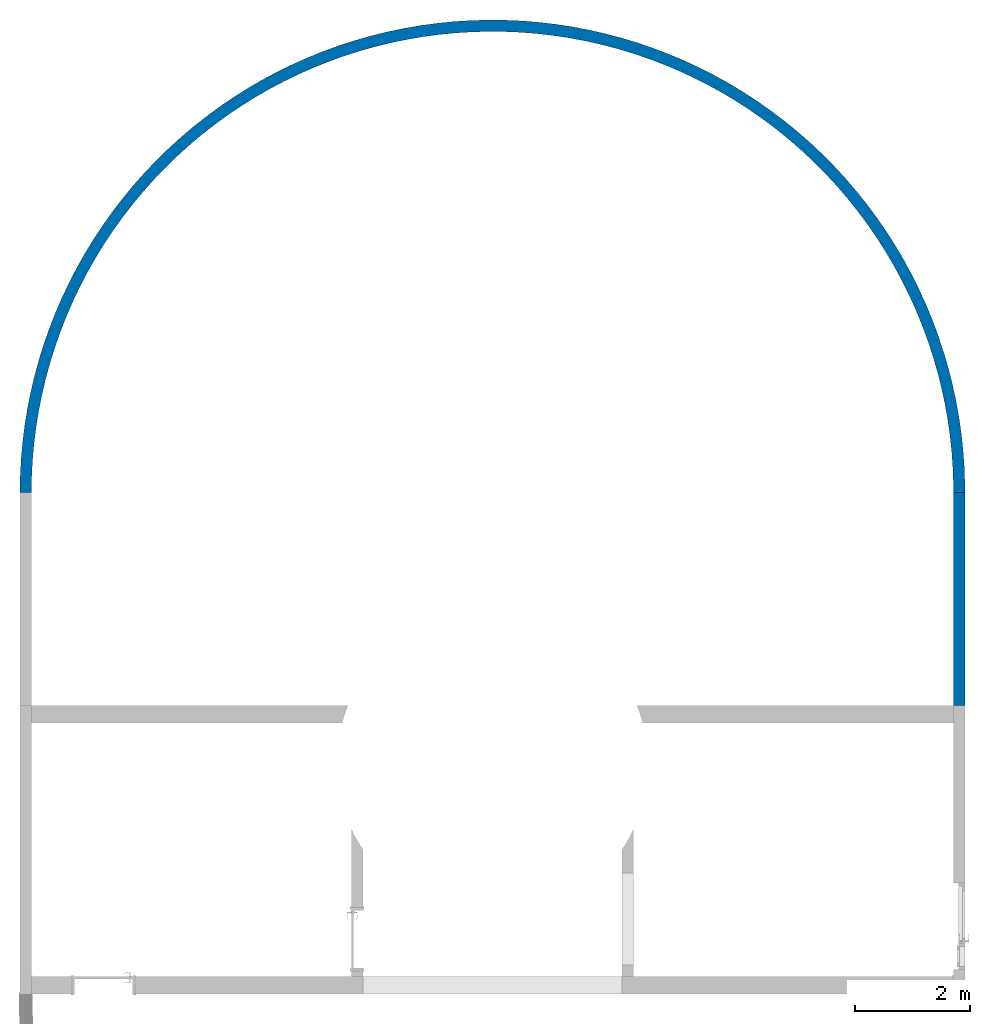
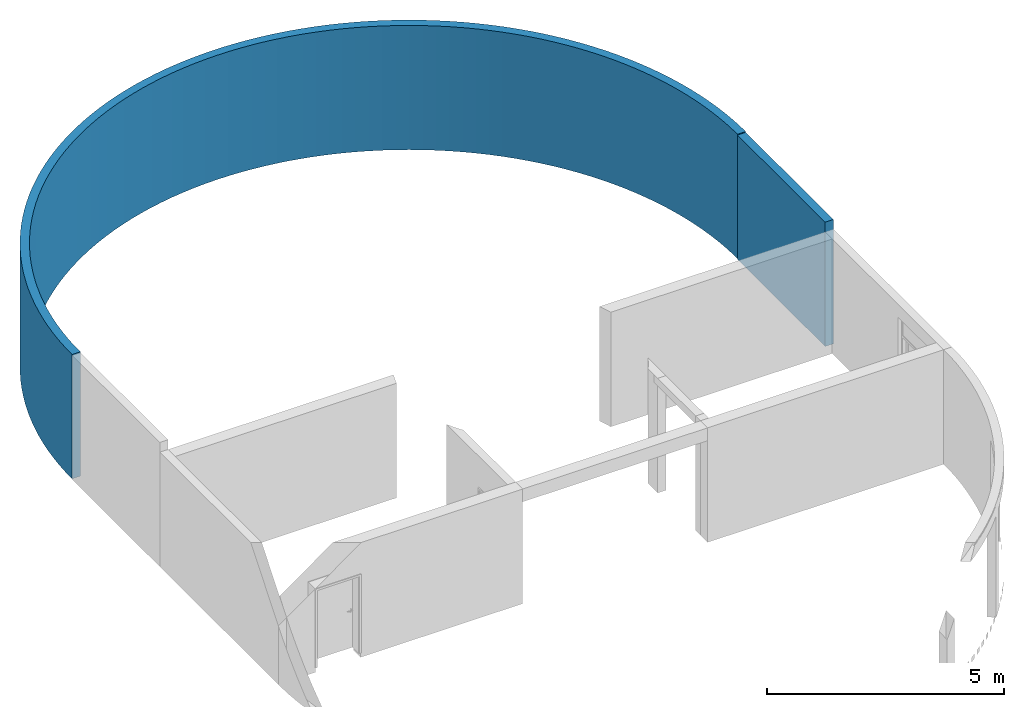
# One storey, part 6 of 6: 2 walls.
"""IFC4 building model written with IfcOpenShell, lengths in millimetres."""

from ifc_helpers import new_model, entity, si_unit, converted_unit, derived_unit, direction, frame, origin_with_axes, place, context, subcontext, project, spatial, polygons, material, constituent, constituent_set, type_object, element, save


model = new_model("IFC4")

# Units and contexts
model_context = context("Model", 3, precision=0.01, world=origin_with_axes(), true_north=direction((0.0, 1.0)))
body_context = subcontext(model_context, "Body", "Model", "MODEL_VIEW")
ifc_project = project(units=[si_unit("LENGTHUNIT", "METRE", prefix="MILLI"), si_unit("AREAUNIT", "SQUARE_METRE"), si_unit("VOLUMEUNIT", "CUBIC_METRE"), converted_unit("PLANEANGLEUNIT", "DEGREE", entity("IfcPlaneAngleMeasure", 0.0174532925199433), si_unit("PLANEANGLEUNIT", "RADIAN"), dimensions=[0, 0, 0, 0, 0, 0, 0]), converted_unit("TIMEUNIT", "Year", entity("IfcTimeMeasure", 31557600.0), si_unit("TIMEUNIT", "SECOND"), dimensions=[0, 0, 1, 0, 0, 0, 0]), si_unit("MASSUNIT", "GRAM", prefix="KILO"), si_unit("THERMODYNAMICTEMPERATUREUNIT", "DEGREE_CELSIUS"), si_unit("LUMINOUSINTENSITYUNIT", "LUMEN"), si_unit("ENERGYUNIT", "JOULE", prefix="MEGA"), derived_unit("THERMALCONDUCTANCEUNIT", [(si_unit("POWERUNIT", "WATT"), 1), (si_unit("LENGTHUNIT", "METRE"), -1), (si_unit("THERMODYNAMICTEMPERATUREUNIT", "KELVIN"), -1)]), derived_unit("SPECIFICHEATCAPACITYUNIT", [(si_unit("ENERGYUNIT", "JOULE"), 1), (si_unit("MASSUNIT", "GRAM", prefix="KILO"), -1), (si_unit("THERMODYNAMICTEMPERATUREUNIT", "KELVIN"), -1)]), derived_unit("MASSDENSITYUNIT", [(si_unit("MASSUNIT", "GRAM", prefix="KILO"), 1), (si_unit("VOLUMEUNIT", "CUBIC_METRE"), -1)])], contexts=[model_context])

# Site, building, storey
site_placement = place(None, origin_with_axes())
site = spatial("IfcSite", under=ifc_project, at=site_placement, Name="Exteriér", CompositionType="ELEMENT")
building_placement = place(site_placement, origin_with_axes())
building = spatial("IfcBuilding", under=site, at=building_placement, Name="Univerzitní lezecké centrum", CompositionType="ELEMENT")
storey_placement = place(building_placement, origin_with_axes())
storey = spatial("IfcBuildingStorey", under=building, at=storey_placement, Name="1.NP", CompositionType="ELEMENT", Elevation=0.0)

# Walls
ifc_material = material(Name="Beton vyztužený - vnější svislé kce")
ifc_constituent_1 = constituent(ifc_material, Name="Beton vyztužený - vnější svislé kce")
ifc_constituent_set_1 = constituent_set(constituents=[ifc_constituent_1], Name="!Vnější betonová stěna 200 mm")
wall_type = type_object("IfcWallType", Name="!Vnější betonová stěna 200 mm 200", PredefinedType="NOTDEFINED")
wall_1_placement = place(storey_placement, frame((10449.85164885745, 8399.999999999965, -100.000000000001), z_axis=(0.0, 0.0, 1.0), x_axis=(0.0, 1.0, 0.0)))
element("IfcWall", 1, at=wall_1_placement, inside=storey, type_object=wall_type, material=ifc_constituent_set_1, Name="St01", PredefinedType="NOTDEFINED", context=body_context, shape_type="Tessellation", body=[
    polygons([(145.5579959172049, -199.9999999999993, 0.0), (145.5579959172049, -199.9999999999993, 3200.0), (0.0, -199.9999999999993, 3200.0), (0.0, -199.9999999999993, 0.0), (436.4905859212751, -189.6680701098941, 0.0), (436.4905859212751, -189.6680701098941, 3200.0), (142.0078008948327, 0.0, 3200.0), (0.0, 0.0, 3200.0), (0.0, 0.0, 0.0), (142.0078008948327, 0.0, 0.0), (726.8732015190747, -169.0172284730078, 0.0), (726.8732015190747, -169.0172284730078, 3200.0), (425.8444740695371, 10.07993160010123, 3200.0), (425.8444740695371, 10.07993160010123, 0.0), (1016.339963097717, -138.0734949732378, 0.0), (1016.339963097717, -138.0734949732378, 3200.0), (709.1445868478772, 30.227094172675, 3200.0), (709.1445868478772, 30.227094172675, 0.0), (1304.526145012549, -96.87585845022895, 0.0), (1304.526145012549, -96.87585845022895, 3200.0), (991.5511835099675, 60.41610246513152, 3200.0), (991.5511835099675, 60.41610246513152, 0.0), (1591.068635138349, -45.47622757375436, 0.0), (1591.068635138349, -45.47622757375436, 3200.0), (1272.708434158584, 100.6089185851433, 3200.0), (1272.708434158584, 100.6089185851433, 0.0), (1875.606392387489, 16.06063456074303, 0.0), (1875.606392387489, 16.06063456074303, 3200.0), (1552.262083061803, 150.7548999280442, 3200.0), (1552.262083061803, 150.7548999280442, 0.0), (2157.780901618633, 87.65719203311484, 0.0), (2157.780901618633, 87.65719203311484, 3200.0), (1829.859895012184, 210.7908629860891, 3200.0), (1829.859895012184, 210.7908629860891, 0.0), (2437.236625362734, 169.2232337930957, 0.0), (2437.236625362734, 169.2232337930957, 3200.0), (2105.152099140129, 280.6411629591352, 3200.0), (2105.152099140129, 280.6411629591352, 0.0), (2713.621451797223, 260.6559873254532, 0.0), (2713.621451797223, 260.6559873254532, 3200.0), (2377.791829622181, 360.217789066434, 3200.0), (2377.791829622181, 360.217789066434, 0.0), (2986.587138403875, 361.8402481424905, 0.0), (2986.587138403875, 361.8402481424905, 3200.0), (2647.435562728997, 449.4204754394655, 3200.0), (2647.435562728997, 449.4204754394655, 0.0), (3255.78975075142, 472.6485249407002, 0.0), (3255.78975075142, 472.6485249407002, 3200.0), (2913.743549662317, 548.1368274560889, 3200.0), (2913.743549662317, 548.1368274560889, 0.0), (3520.890095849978, 592.9412002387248, 0.0), (3520.890095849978, 592.9412002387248, 3200.0), (3176.380244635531, 656.2424633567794, 3200.0), (3176.380244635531, 656.2424633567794, 0.0), (3781.554149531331, 722.5667062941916, 0.0), (3781.554149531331, 722.5667062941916, 3200.0), (3435.014727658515, 773.6011709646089, 3200.0), (3435.014727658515, 773.6011709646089, 0.0), (4037.453477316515, 861.3617160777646, 0.0), (4037.453477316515, 861.3617160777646, 3200.0), (3689.321121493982, 900.0650793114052, 3200.0), (3689.321121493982, 900.0650793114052, 0.0), (4288.265648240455, 1009.151349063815, 0.0), (4288.265648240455, 1009.151349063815, 3200.0), (3938.979002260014, 1035.474844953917, 3200.0), (3938.979002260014, 1035.474844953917, 0.0), (4533.674641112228, 1165.749391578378, 0.0), (4533.674641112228, 1165.749391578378, 3200.0), (4183.673803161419, 1179.659852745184, 3200.0), (4183.673803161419, 1179.659852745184, 0.0), (4773.371242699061, 1330.958531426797, 0.0), (4773.371242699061, 1330.958531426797, 3200.0), (4423.097210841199, 1332.438430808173, 3200.0), (4423.097210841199, 1332.438430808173, 0.0), (5007.053437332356, 1504.570606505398, 0.0), (5007.053437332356, 1504.570606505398, 3200.0), (4656.947553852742, 1493.618079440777, 3200.0), (4656.947553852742, 1493.618079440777, 0.0), (5234.426787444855, 1686.366867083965, 0.0), (5234.426787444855, 1686.366867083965, 3200.0), (4884.930182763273, 1662.995713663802, 3200.0), (4884.930182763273, 1662.995713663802, 0.0), (5455.204804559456, 1876.118251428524, 0.0), (5455.204804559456, 1876.118251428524, 3200.0), (5106.757841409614, 1840.357919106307, 3200.0), (5106.757841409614, 1840.357919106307, 0.0), (5669.109310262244, 2073.585674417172, 0.0), (5669.109310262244, 2073.585674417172, 3200.0), (5322.151028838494, 2025.481220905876, 3200.0), (5322.151028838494, 2025.481220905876, 0.0), (5875.870786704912, 2278.520328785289, 0.0), (5875.870786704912, 2278.520328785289, 3200.0), (5530.838351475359, 2218.132365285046, 3200.0), (5530.838351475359, 2218.132365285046, 0.0), (6075.228716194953, 2490.663998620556, 0.0), (6075.228716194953, 2490.663998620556, 3200.0), (5732.556865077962, 2418.06861344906, 3200.0), (5732.556865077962, 2418.06861344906, 0.0), (6266.931909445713, 2709.749384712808, 0.0), (6266.931909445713, 2709.749384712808, 3200.0), (5927.052406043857, 2625.038047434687, 3200.0), (5927.052406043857, 2625.038047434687, 0.0), (6450.738822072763, 2935.50044134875, 0.0), (6450.738822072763, 2935.50044134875, 3200.0), (6114.079911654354, 2838.779887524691, 3200.0), (6114.079911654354, 2838.779887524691, 0.0), (6626.417858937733, 3167.632724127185, 0.0), (6626.417858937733, 3167.632724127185, 3200.0), (6293.403728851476, 3059.024820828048, 3200.0), (6293.403728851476, 3059.024820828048, 0.0), (6793.747665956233, 3405.853748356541, 0.0), (6793.747665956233, 3405.853748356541, 3200.0), (6464.797911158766, 3285.495340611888, 3200.0), (6464.797911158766, 3285.495340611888, 0.0), (6952.51740900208, 3649.863357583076, 0.0), (6952.51740900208, 3649.863357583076, 3200.0), (6628.046503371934, 3517.906095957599, 3200.0), (6628.046503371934, 3517.906095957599, 0.0), (7102.52703955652, 3899.354101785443, 0.0), (7102.52703955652, 3899.354101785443, 3200.0), (6782.943813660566, 3755.964251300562, 3200.0), (6782.943813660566, 3755.964251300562, 0.0), (7243.587546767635, 4154.011624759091, 0.0), (7243.587546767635, 4154.011624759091, 3200.0), (6929.29467273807, 3999.369855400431, 3200.0), (6929.29467273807, 3999.369855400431, 0.0), (7375.521195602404, 4413.51506020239, 0.0), (7375.521195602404, 4413.51506020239, 3200.0), (7066.914679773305, 4247.816219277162, 3200.0), (7066.914679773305, 4247.816219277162, 0.0), (7498.161750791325, 4677.537436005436, 0.0), (7498.161750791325, 4677.537436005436, 3200.0), (7195.630434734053, 4500.990302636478, 3200.0), (7195.630434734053, 4500.990302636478, 0.0), (7611.354686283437, 4945.746086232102, 0.0), (7611.354686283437, 4945.746086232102, 3200.0), (7315.279756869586, 4758.573108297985, 3200.0), (7315.279756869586, 4758.573108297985, 0.0), (7714.957379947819, 5217.803070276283, 0.0), (7714.957379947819, 5217.803070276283, 3200.0), (7425.711889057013, 5020.240084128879, 3200.0), (7425.711889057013, 5020.240084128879, 0.0), (7808.83929327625, 5493.365598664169, 0.0), (7808.83929327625, 5493.365598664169, 3200.0), (7526.78768775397, 5285.66153197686, 3200.0), (7526.78768775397, 5285.66153197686, 0.0), (7892.882135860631, 5772.086464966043, 0.0), (7892.882135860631, 5772.086464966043, 3200.0), (7618.379798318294, 5554.503023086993, 3200.0), (7618.379798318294, 5554.503023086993, 0.0), (7966.980014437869, 6053.614483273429, 0.0), (7966.980014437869, 6053.614483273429, 3200.0), (7700.372815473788, 5826.425819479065, 3200.0), (7700.372815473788, 5826.425819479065, 0.0), (8031.039566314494, 6337.59493069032, 0.0), (8031.039566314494, 6337.59493069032, 3200.0), (7772.66342871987, 6101.087300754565, 3200.0), (7772.66342871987, 6101.087300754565, 0.0), (8084.980077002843, 6623.669994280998, 0.0), (8084.980077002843, 6623.669994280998, 3200.0), (7835.160552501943, 6378.141395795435, 3200.0), (7835.160552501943, 6378.141395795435, 0.0), (8128.733581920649, 6911.479221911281, 0.0), (8128.733581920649, 6911.479221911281, 3200.0), (7887.785440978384, 6657.23901881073, 3200.0), (7887.785440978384, 6657.23901881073, 0.0), (8162.244952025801, 7200.659976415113, 0.0), (8162.244952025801, 7200.659976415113, 3200.0), (7930.471787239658, 6938.028509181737, 3200.0), (7930.471787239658, 6938.028509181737, 0.0), (8185.471963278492, 7490.847892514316, 0.0), (8185.471963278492, 7490.847892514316, 3200.0), (7963.165806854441, 7220.15607455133, 3200.0), (7963.165806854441, 7220.15607455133, 0.0), (8198.385349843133, 7781.677335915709, 0.0), (8198.385349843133, 7781.677335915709, 3200.0), (7985.826305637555, 7503.266236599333, 3200.0), (7985.826305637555, 7503.266236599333, 0.0), (8200.96884096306, 8072.78186400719, 0.0), (8200.96884096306, 8072.78186400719, 3200.0), (7998.424731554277, 7787.002278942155, 3200.0), (7998.424731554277, 7787.002278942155, 0.0), (8193.219181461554, 8363.794687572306, 0.0), (8193.219181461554, 8363.794687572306, 3200.0), (8000.945210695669, 8071.006696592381, 3200.0), (8000.945210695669, 8071.006696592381, 0.0), (8175.146135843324, 8654.349132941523, 0.0), (8175.146135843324, 8654.349132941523, 3200.0), (7993.384567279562, 8354.921646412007, 3200.0), (7993.384567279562, 8354.921646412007, 0.0), (8146.77247599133, 8944.07910399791, 0.0), (8146.77247599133, 8944.07910399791, 3200.0), (7975.752327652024, 8638.38939799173, 3200.0), (7975.752327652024, 8638.38939799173, 0.0), (8108.133952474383, 9232.619543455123, 0.0), (8108.133952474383, 9232.619543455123, 3200.0), (7948.070708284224, 8921.052784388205, 3200.0), (7948.070708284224, 8921.052784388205, 0.0), (8059.27924950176, 9519.606892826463, 0.0), (8059.27924950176, 9519.606892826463, 3200.0), (7910.374587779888, 9202.555652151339, 3200.0), (7910.374587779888, 9202.555652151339, 0.0), (8000.269923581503, 9804.679550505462, 0.0), (8000.269923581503, 9804.679550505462, 3200.0), (7862.711462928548, 9482.543310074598, 3200.0), (7862.711462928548, 9482.543310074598, 0.0), (7931.180325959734, 10087.47832738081, 0.0), (7931.180325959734, 10087.47832738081, 3200.0), (7805.141388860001, 9760.662976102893, 3200.0), (7805.141388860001, 9760.662976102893, 0.0), (7852.097508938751, 10367.64689941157, 0.0), (7852.097508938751, 10367.64689941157, 3200.0), (7737.736903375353, 10036.56422183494, 3200.0), (7737.736903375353, 10036.56422183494, 0.0), (7763.121116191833, 10644.83225659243, 0.0), (7763.121116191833, 10644.83225659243, 3200.0), (7660.58293555, 10309.89941406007, 3200.0), (7660.58293555, 10309.89941406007, 0.0), (7664.363257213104, 10918.68514774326, 0.0), (7664.363257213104, 10918.68514774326, 3200.0), (7573.776698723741, 10580.3241527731, 3200.0), (7573.776698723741, 10580.3241527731, 0.0), (7555.948366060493, 11188.86052056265, 0.0), (7555.948366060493, 11188.86052056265, 3200.0), (7477.427568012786, 10847.49770511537, 3200.0), (7477.427568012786, 10847.49770511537, 0.0), (7438.013044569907, 11455.01795639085, 0.0), (7438.013044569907, 11455.01795639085, 3200.0), (7371.656942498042, 11111.08343469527, 3200.0), (7371.656942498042, 11111.08343469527, 0.0), (7310.70589023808, 11716.82209913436, 0.0), (7310.70589023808, 11716.82209913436, 3200.0), (7256.598092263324, 11370.74922574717, 3200.0), (7256.598092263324, 11370.74922574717, 0.0), (7174.187308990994, 11973.94307781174, 0.0), (7174.187308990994, 11973.94307781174, 3200.0), (7132.395990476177, 11626.1679015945, 3200.0), (7132.395990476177, 11626.1679015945, 0.0), (7028.629313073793, 12226.05692218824, 0.0), (7028.629313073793, 12226.05692218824, 3200.0), (6999.207130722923, 11877.0176368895, 3200.0), (6999.207130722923, 11877.0176368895, 0.0), (6874.215304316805, 12472.84597097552, 0.0), (6874.215304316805, 12472.84597097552, 3200.0), (6857.199329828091, 12122.98236311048, 3200.0), (6857.199329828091, 12122.98236311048, 0.0), (6711.139843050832, 12713.99927208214, 0.0), (6711.139843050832, 12713.99927208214, 3200.0), (6706.551516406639, 12363.75216680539, 3200.0), (6706.551516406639, 12363.75216680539, 0.0), (6539.608402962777, 12949.21297441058, 0.0), (6539.608402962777, 12949.21297441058, 3200.0), (6547.453505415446, 12599.02368008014, 3200.0), (6547.453505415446, 12599.02368008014, 0.0), (6359.837112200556, 13178.19071070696, 0.0), (6359.837112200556, 13178.19071070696, 3200.0), (6380.105758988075, 12828.50046283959, 3200.0), (6380.105758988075, 12828.50046283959, 0.0), (6172.052481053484, 13400.64397098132, 0.0), (6172.052481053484, 13400.64397098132, 3200.0), (6204.719133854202, 13051.89337629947, 3200.0), (6204.719133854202, 13051.89337629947, 0.0), (5976.491116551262, 13616.29246602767, 0.0), (5976.491116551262, 13616.29246602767, 3200.0), (6021.514615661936, 13268.92094729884, 3200.0), (6021.514615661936, 13268.92094729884, 0.0), (5773.399424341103, 13824.86448058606, 0.0), (5773.399424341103, 13824.86448058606, 3200.0), (5830.723040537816, 13479.30972295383, 3200.0), (5830.723040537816, 13479.30972295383, 0.0), (5563.033298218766, 14026.09721570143, 0.0), (5563.033298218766, 14026.09721570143, 3200.0), (5632.584804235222, 13682.79461520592, 3200.0), (5632.584804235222, 13682.79461520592, 0.0), (5345.657797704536, 14219.73711984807, 0.0), (5345.657797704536, 14219.73711984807, 3200.0), (5427.34955923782, 13879.11923483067, 3200.0), (5427.34955923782, 13879.11923483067, 0.0), (5121.546814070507, 14405.54020840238, 0.0), (5121.546814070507, 14405.54020840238, 3200.0), (5215.275900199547, 14068.03621448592, 3200.0), (5215.275900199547, 14068.03621448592, 0.0), (4890.982725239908, 14583.27237106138, 0.0), (4890.982725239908, 14583.27237106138, 3200.0), (4996.63103811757, 14249.30752039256, 3200.0), (4996.63103811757, 14249.30752039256, 0.0), (4654.256039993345, 14752.70966681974, 0.0), (4654.256039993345, 14752.70966681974, 3200.0), (4771.690463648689, 14422.704752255, 3200.0), (4771.690463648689, 14422.704752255, 0.0), (4411.665031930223, 14913.63860613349, 0.0), (4411.665031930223, 14913.63860613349, 3200.0), (4540.737599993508, 14588.00943104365, 3200.0), (4540.737599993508, 14588.00943104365, 0.0), (4163.515363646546, 15065.85641991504, 0.0), (4163.515363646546, 15065.85641991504, 3200.0), (4304.063445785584, 14745.01327427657, 3200.0), (4304.063445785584, 14745.01327427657, 0.0), (3910.119701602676, 15209.17131502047, 0.0), (3910.119701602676, 15209.17131502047, 3200.0), (4061.966208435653, 14893.51845845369, 3200.0), (4061.966208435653, 14893.51845845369, 0.0), (3651.797322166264, 15343.40271590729, 0.0), (3651.797322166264, 15343.40271590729, 3200.0), (3814.750928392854, 15033.33786831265, 3200.0), (3814.750928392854, 15033.33786831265, 0.0), (3388.873709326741, 15468.38149215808, 0.0), (3388.873709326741, 15468.38149215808, 3200.0), (3562.729094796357, 15164.29533259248, 3200.0), (3562.729094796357, 15164.29533259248, 0.0), (3121.680144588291, 15583.95017158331, 0.0), (3121.680144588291, 15583.95017158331, 3200.0), (3306.218253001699, 15286.22584600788, 3200.0), (3306.218253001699, 15286.22584600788, 0.0), (2850.553289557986, 15689.96313863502, 0.0), (2850.553289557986, 15689.96313863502, 3200.0), (3045.541604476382, 15398.97577715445, 3200.0), (3045.541604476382, 15398.97577715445, 0.0), (2575.834761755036, 15786.28681788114, 0.0), (2575.834761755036, 15786.28681788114, 3200.0), (2781.027599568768, 15502.40306208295, 3200.0), (2781.027599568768, 15502.40306208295, 0.0), (2297.870704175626, 15872.79984230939, 0.0), (2297.870704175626, 15872.79984230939, 3200.0), (2513.009523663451, 15596.37738329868, 3200.0), (2513.009523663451, 15596.37738329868, 0.0), (2017.011349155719, 15949.39320624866, 0.0), (2017.011349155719, 15949.39320624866, 3200.0), (2241.825077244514, 15680.78033396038, 3200.0), (2241.825077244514, 15680.78033396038, 0.0), (1733.610577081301, 16015.97040271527, 0.0), (1733.610577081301, 16015.97040271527, 3200.0), (1967.815950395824, 15755.50556707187, 3200.0), (1967.815950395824, 15755.50556707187, 0.0), (1448.025470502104, 16072.44754501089, 0.0), (1448.025470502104, 16072.44754501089, 3200.0), (1691.32739227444, 15820.45892947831, 3200.0), (1691.32739227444, 15820.45892947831, 0.0), (1160.615864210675, 16118.75347241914, 0.0), (1160.615864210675, 16118.75347241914, 3200.0), (1412.707776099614, 15875.55858049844, 3200.0), (1412.707776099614, 15875.55858049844, 0.0), (871.743891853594, 16154.82983986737, 0.0), (871.743891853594, 16154.82983986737, 3200.0), (1132.308160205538, 15920.73509504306, 3200.0), (1132.308160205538, 15920.73509504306, 0.0), (581.7735296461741, 16180.63119144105, 0.0), (581.7735296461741, 16180.63119144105, 3200.0), (850.4818457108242, 15955.93155109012, 3200.0), (850.4818457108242, 15955.93155109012, 0.0), (291.0701377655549, 16196.12501765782, 0.0), (291.0701377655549, 16196.12501765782, 3200.0), (567.5839313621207, 15981.10360140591, 3200.0), (567.5839313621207, 15981.10360140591, 0.0), (0.0, 16199.99999999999, 0.0), (0.0, 16199.99999999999, 3200.0), (283.9708661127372, 15996.21952942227, 3200.0), (283.9708661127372, 15996.21952942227, 0.0), (0.0, 15999.99999999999, 0.0), (0.0, 15999.99999999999, 3200.0)], [[[1, 2, 3, 4]], [[5, 6, 2, 1]], [[2, 7, 8, 3]], [[4, 3, 8, 9]], [[10, 1, 4, 9]], [[11, 12, 6, 5]], [[6, 13, 7, 2]], [[14, 5, 1, 10]], [[7, 10, 9, 8]], [[15, 16, 12, 11]], [[12, 17, 13, 6]], [[18, 11, 5, 14]], [[13, 14, 10, 7]], [[19, 20, 16, 15]], [[16, 21, 17, 12]], [[22, 15, 11, 18]], [[17, 18, 14, 13]], [[23, 24, 20, 19]], [[20, 25, 21, 16]], [[26, 19, 15, 22]], [[21, 22, 18, 17]], [[27, 28, 24, 23]], [[24, 29, 25, 20]], [[30, 23, 19, 26]], [[25, 26, 22, 21]], [[31, 32, 28, 27]], [[28, 33, 29, 24]], [[34, 27, 23, 30]], [[29, 30, 26, 25]], [[35, 36, 32, 31]], [[32, 37, 33, 28]], [[38, 31, 27, 34]], [[33, 34, 30, 29]], [[39, 40, 36, 35]], [[36, 41, 37, 32]], [[42, 35, 31, 38]], [[37, 38, 34, 33]], [[43, 44, 40, 39]], [[40, 45, 41, 36]], [[46, 39, 35, 42]], [[41, 42, 38, 37]], [[47, 48, 44, 43]], [[44, 49, 45, 40]], [[50, 43, 39, 46]], [[45, 46, 42, 41]], [[51, 52, 48, 47]], [[48, 53, 49, 44]], [[54, 47, 43, 50]], [[49, 50, 46, 45]], [[55, 56, 52, 51]], [[52, 57, 53, 48]], [[58, 51, 47, 54]], [[53, 54, 50, 49]], [[59, 60, 56, 55]], [[56, 61, 57, 52]], [[62, 55, 51, 58]], [[57, 58, 54, 53]], [[63, 64, 60, 59]], [[60, 65, 61, 56]], [[66, 59, 55, 62]], [[61, 62, 58, 57]], [[67, 68, 64, 63]], [[64, 69, 65, 60]], [[70, 63, 59, 66]], [[65, 66, 62, 61]], [[71, 72, 68, 67]], [[68, 73, 69, 64]], [[74, 67, 63, 70]], [[69, 70, 66, 65]], [[75, 76, 72, 71]], [[72, 77, 73, 68]], [[78, 71, 67, 74]], [[73, 74, 70, 69]], [[79, 80, 76, 75]], [[76, 81, 77, 72]], [[82, 75, 71, 78]], [[77, 78, 74, 73]], [[83, 84, 80, 79]], [[80, 85, 81, 76]], [[86, 79, 75, 82]], [[81, 82, 78, 77]], [[87, 88, 84, 83]], [[84, 89, 85, 80]], [[90, 83, 79, 86]], [[85, 86, 82, 81]], [[91, 92, 88, 87]], [[88, 93, 89, 84]], [[94, 87, 83, 90]], [[89, 90, 86, 85]], [[95, 96, 92, 91]], [[92, 97, 93, 88]], [[98, 91, 87, 94]], [[93, 94, 90, 89]], [[99, 100, 96, 95]], [[96, 101, 97, 92]], [[102, 95, 91, 98]], [[97, 98, 94, 93]], [[103, 104, 100, 99]], [[100, 105, 101, 96]], [[106, 99, 95, 102]], [[101, 102, 98, 97]], [[107, 108, 104, 103]], [[104, 109, 105, 100]], [[110, 103, 99, 106]], [[105, 106, 102, 101]], [[111, 112, 108, 107]], [[108, 113, 109, 104]], [[114, 107, 103, 110]], [[109, 110, 106, 105]], [[115, 116, 112, 111]], [[112, 117, 113, 108]], [[118, 111, 107, 114]], [[113, 114, 110, 109]], [[119, 120, 116, 115]], [[116, 121, 117, 112]], [[122, 115, 111, 118]], [[117, 118, 114, 113]], [[123, 124, 120, 119]], [[120, 125, 121, 116]], [[126, 119, 115, 122]], [[121, 122, 118, 117]], [[127, 128, 124, 123]], [[124, 129, 125, 120]], [[130, 123, 119, 126]], [[125, 126, 122, 121]], [[131, 132, 128, 127]], [[128, 133, 129, 124]], [[134, 127, 123, 130]], [[129, 130, 126, 125]], [[135, 136, 132, 131]], [[132, 137, 133, 128]], [[138, 131, 127, 134]], [[133, 134, 130, 129]], [[139, 140, 136, 135]], [[136, 141, 137, 132]], [[142, 135, 131, 138]], [[137, 138, 134, 133]], [[143, 144, 140, 139]], [[140, 145, 141, 136]], [[146, 139, 135, 142]], [[141, 142, 138, 137]], [[147, 148, 144, 143]], [[144, 149, 145, 140]], [[150, 143, 139, 146]], [[145, 146, 142, 141]], [[151, 152, 148, 147]], [[148, 153, 149, 144]], [[154, 147, 143, 150]], [[149, 150, 146, 145]], [[155, 156, 152, 151]], [[152, 157, 153, 148]], [[158, 151, 147, 154]], [[153, 154, 150, 149]], [[159, 160, 156, 155]], [[156, 161, 157, 152]], [[162, 155, 151, 158]], [[157, 158, 154, 153]], [[163, 164, 160, 159]], [[160, 165, 161, 156]], [[166, 159, 155, 162]], [[161, 162, 158, 157]], [[167, 168, 164, 163]], [[164, 169, 165, 160]], [[170, 163, 159, 166]], [[165, 166, 162, 161]], [[171, 172, 168, 167]], [[168, 173, 169, 164]], [[174, 167, 163, 170]], [[169, 170, 166, 165]], [[175, 176, 172, 171]], [[172, 177, 173, 168]], [[178, 171, 167, 174]], [[173, 174, 170, 169]], [[179, 180, 176, 175]], [[176, 181, 177, 172]], [[182, 175, 171, 178]], [[177, 178, 174, 173]], [[183, 184, 180, 179]], [[180, 185, 181, 176]], [[186, 179, 175, 182]], [[181, 182, 178, 177]], [[187, 188, 184, 183]], [[184, 189, 185, 180]], [[190, 183, 179, 186]], [[185, 186, 182, 181]], [[191, 192, 188, 187]], [[188, 193, 189, 184]], [[194, 187, 183, 190]], [[189, 190, 186, 185]], [[195, 196, 192, 191]], [[192, 197, 193, 188]], [[198, 191, 187, 194]], [[193, 194, 190, 189]], [[199, 200, 196, 195]], [[196, 201, 197, 192]], [[202, 195, 191, 198]], [[197, 198, 194, 193]], [[203, 204, 200, 199]], [[200, 205, 201, 196]], [[206, 199, 195, 202]], [[201, 202, 198, 197]], [[207, 208, 204, 203]], [[204, 209, 205, 200]], [[210, 203, 199, 206]], [[205, 206, 202, 201]], [[211, 212, 208, 207]], [[208, 213, 209, 204]], [[214, 207, 203, 210]], [[209, 210, 206, 205]], [[215, 216, 212, 211]], [[212, 217, 213, 208]], [[218, 211, 207, 214]], [[213, 214, 210, 209]], [[219, 220, 216, 215]], [[216, 221, 217, 212]], [[222, 215, 211, 218]], [[217, 218, 214, 213]], [[223, 224, 220, 219]], [[220, 225, 221, 216]], [[226, 219, 215, 222]], [[221, 222, 218, 217]], [[227, 228, 224, 223]], [[224, 229, 225, 220]], [[230, 223, 219, 226]], [[225, 226, 222, 221]], [[231, 232, 228, 227]], [[228, 233, 229, 224]], [[234, 227, 223, 230]], [[229, 230, 226, 225]], [[235, 236, 232, 231]], [[232, 237, 233, 228]], [[238, 231, 227, 234]], [[233, 234, 230, 229]], [[239, 240, 236, 235]], [[236, 241, 237, 232]], [[242, 235, 231, 238]], [[237, 238, 234, 233]], [[243, 244, 240, 239]], [[240, 245, 241, 236]], [[246, 239, 235, 242]], [[241, 242, 238, 237]], [[247, 248, 244, 243]], [[244, 249, 245, 240]], [[250, 243, 239, 246]], [[245, 246, 242, 241]], [[251, 252, 248, 247]], [[248, 253, 249, 244]], [[254, 247, 243, 250]], [[249, 250, 246, 245]], [[255, 256, 252, 251]], [[252, 257, 253, 248]], [[258, 251, 247, 254]], [[253, 254, 250, 249]], [[259, 260, 256, 255]], [[256, 261, 257, 252]], [[262, 255, 251, 258]], [[257, 258, 254, 253]], [[263, 264, 260, 259]], [[260, 265, 261, 256]], [[266, 259, 255, 262]], [[261, 262, 258, 257]], [[267, 268, 264, 263]], [[264, 269, 265, 260]], [[270, 263, 259, 266]], [[265, 266, 262, 261]], [[271, 272, 268, 267]], [[268, 273, 269, 264]], [[274, 267, 263, 270]], [[269, 270, 266, 265]], [[275, 276, 272, 271]], [[272, 277, 273, 268]], [[278, 271, 267, 274]], [[273, 274, 270, 269]], [[279, 280, 276, 275]], [[276, 281, 277, 272]], [[282, 275, 271, 278]], [[277, 278, 274, 273]], [[283, 284, 280, 279]], [[280, 285, 281, 276]], [[286, 279, 275, 282]], [[281, 282, 278, 277]], [[287, 288, 284, 283]], [[284, 289, 285, 280]], [[290, 283, 279, 286]], [[285, 286, 282, 281]], [[291, 292, 288, 287]], [[288, 293, 289, 284]], [[294, 287, 283, 290]], [[289, 290, 286, 285]], [[295, 296, 292, 291]], [[292, 297, 293, 288]], [[298, 291, 287, 294]], [[293, 294, 290, 289]], [[299, 300, 296, 295]], [[296, 301, 297, 292]], [[302, 295, 291, 298]], [[297, 298, 294, 293]], [[303, 304, 300, 299]], [[300, 305, 301, 296]], [[306, 299, 295, 302]], [[301, 302, 298, 297]], [[307, 308, 304, 303]], [[304, 309, 305, 300]], [[310, 303, 299, 306]], [[305, 306, 302, 301]], [[311, 312, 308, 307]], [[308, 313, 309, 304]], [[314, 307, 303, 310]], [[309, 310, 306, 305]], [[315, 316, 312, 311]], [[312, 317, 313, 308]], [[318, 311, 307, 314]], [[313, 314, 310, 309]], [[319, 320, 316, 315]], [[316, 321, 317, 312]], [[322, 315, 311, 318]], [[317, 318, 314, 313]], [[323, 324, 320, 319]], [[320, 325, 321, 316]], [[326, 319, 315, 322]], [[321, 322, 318, 317]], [[327, 328, 324, 323]], [[324, 329, 325, 320]], [[330, 323, 319, 326]], [[325, 326, 322, 321]], [[331, 332, 328, 327]], [[328, 333, 329, 324]], [[334, 327, 323, 330]], [[329, 330, 326, 325]], [[335, 336, 332, 331]], [[332, 337, 333, 328]], [[338, 331, 327, 334]], [[333, 334, 330, 329]], [[339, 340, 336, 335]], [[336, 341, 337, 332]], [[342, 335, 331, 338]], [[337, 338, 334, 333]], [[343, 344, 340, 339]], [[340, 345, 341, 336]], [[346, 339, 335, 342]], [[341, 342, 338, 337]], [[347, 348, 344, 343]], [[344, 349, 345, 340]], [[350, 343, 339, 346]], [[345, 346, 342, 341]], [[351, 352, 348, 347]], [[348, 353, 349, 344]], [[354, 347, 343, 350]], [[349, 350, 346, 345]], [[355, 356, 352, 351]], [[352, 357, 353, 348]], [[358, 351, 347, 354]], [[353, 354, 350, 349]], [[355, 359, 360, 356]], [[356, 360, 357, 352]], [[359, 355, 351, 358]], [[357, 358, 354, 353]], [[360, 359, 358, 357]]], closed=True),
])
ifc_constituent_2 = constituent(ifc_material, Name="Beton vyztužený - vnější svislé kce")
ifc_constituent_set_2 = constituent_set(constituents=[ifc_constituent_2], Name="!Vnější betonová stěna 200 mm")
wall_2_placement = place(storey_placement, frame((10449.85164885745, 8399.999999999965, -120.000000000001), z_axis=(0.0, 0.0, 1.0), x_axis=(0.0, -1.0, 0.0)))
element("IfcWall", 2, at=wall_2_placement, inside=storey, type_object=wall_type, material=ifc_constituent_set_2, Name="St01", PredefinedType="NOTDEFINED", context=body_context, shape_type="Tessellation", body=[
    polygons([(3700.000000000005, 0.0, 2950.000000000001), (3700.000000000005, 200.0000000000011, 2950.000000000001), (3700.000000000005, 199.9999999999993, 3200.000000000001), (3700.000000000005, 0.0, 3200.000000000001), (3700.000000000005, 199.9999999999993, 0.0), (3700.000000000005, 0.0, 0.0), (0.0, 199.9999999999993, 0.0), (0.0, 200.0000000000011, 3200.000000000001), (0.0, 0.0, 3200.000000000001), (0.0, 0.0, 0.0)], [[[1, 2, 3, 4]], [[5, 2, 1, 6]], [[2, 5, 7, 8, 3]], [[9, 4, 3, 8]], [[6, 1, 4, 9, 10]], [[5, 6, 10, 7]], [[7, 10, 9, 8]]], closed=True),
])

save(model, "model.ifc")
